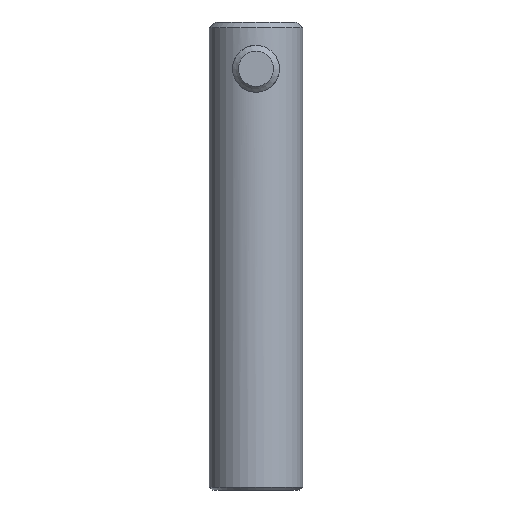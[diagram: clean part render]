
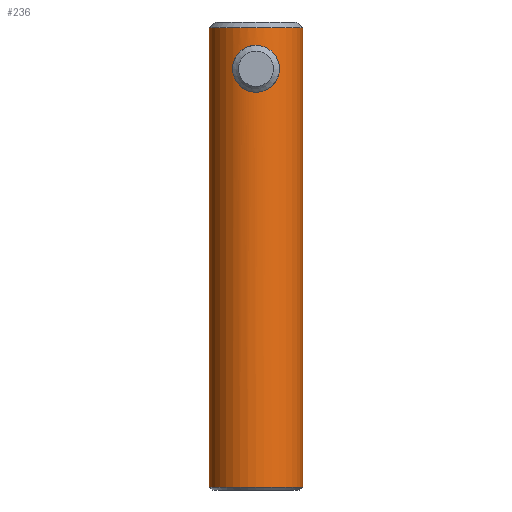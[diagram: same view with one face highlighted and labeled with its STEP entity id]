
A CAD part, left-side view. The second image highlights one B-rep face of the part: STEP entity #236.
In plain terms, the highlighted cylindrical face has radius 8 mm (diameter 16 mm), a full revolution.
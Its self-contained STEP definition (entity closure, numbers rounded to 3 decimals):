
#24=FACE_BOUND('',#51,.T.);
#26=B_SPLINE_CURVE_WITH_KNOTS('',3,(#378,#379,#380,#381,#382,#383,#384,
#385,#386,#387),.UNSPECIFIED.,.F.,.F.,(4,2,2,2,4),(1.845,1.999,
2.152,2.306,2.46),.UNSPECIFIED.);
#27=B_SPLINE_CURVE_WITH_KNOTS('',3,(#389,#390,#391,#392,#393,#394,#395,
#396,#397,#398),.UNSPECIFIED.,.F.,.F.,(4,2,2,2,4),(0.,0.154,
0.308,0.461,0.615),.UNSPECIFIED.);
#28=B_SPLINE_CURVE_WITH_KNOTS('',3,(#400,#401,#402,#403,#404,#405,#406,
#407,#408,#409,#410,#411,#412,#413,#414,#415,#416,#417),.UNSPECIFIED.,.F.,
 .F.,(4,2,2,2,2,2,2,2,4),(0.615,0.769,0.922,
1.076,1.23,1.384,1.538,1.692,
1.845),.UNSPECIFIED.);
#29=B_SPLINE_CURVE_WITH_KNOTS('',3,(#419,#420,#421,#422,#423,#424,#425,
#426,#427,#428,#429,#430,#431,#432,#433,#434,#435,#436,#437,#438,#439,#440,
#441,#442,#443,#444,#445,#446,#447,#448,#449,#450,#451,#452),
 .UNSPECIFIED.,.T.,.F.,(4,2,2,2,2,2,2,2,2,2,2,2,2,2,2,2,4),(0.,0.154,
0.308,0.461,0.615,0.769,
0.922,1.076,1.23,1.384,1.538,
1.692,1.845,1.999,2.152,2.306,
2.46),.UNSPECIFIED.);
#30=CYLINDRICAL_SURFACE('',#274,8.);
#34=FACE_OUTER_BOUND('',#50,.T.);
#50=EDGE_LOOP('',(#171,#172,#173,#174,#175,#176,#177,#178,#179));
#51=EDGE_LOOP('',(#180));
#68=LINE('',#376,#88);
#69=LINE('',#399,#89);
#88=VECTOR('',#308,8.);
#89=VECTOR('',#309,8.);
#108=CIRCLE('',#273,8.);
#109=CIRCLE('',#275,8.);
#116=VERTEX_POINT('',#369);
#117=VERTEX_POINT('',#373);
#118=VERTEX_POINT('',#375);
#119=VERTEX_POINT('',#377);
#120=VERTEX_POINT('',#388);
#121=VERTEX_POINT('',#418);
#137=EDGE_CURVE('',#116,#116,#108,.T.);
#138=EDGE_CURVE('',#117,#117,#109,.T.);
#139=EDGE_CURVE('',#117,#118,#68,.T.);
#140=EDGE_CURVE('',#118,#119,#26,.T.);
#141=EDGE_CURVE('',#119,#120,#27,.T.);
#142=EDGE_CURVE('',#120,#116,#69,.T.);
#143=EDGE_CURVE('',#120,#118,#28,.T.);
#144=EDGE_CURVE('',#121,#121,#29,.T.);
#171=ORIENTED_EDGE('',*,*,#138,.F.);
#172=ORIENTED_EDGE('',*,*,#139,.T.);
#173=ORIENTED_EDGE('',*,*,#140,.T.);
#174=ORIENTED_EDGE('',*,*,#141,.T.);
#175=ORIENTED_EDGE('',*,*,#142,.T.);
#176=ORIENTED_EDGE('',*,*,#137,.F.);
#177=ORIENTED_EDGE('',*,*,#142,.F.);
#178=ORIENTED_EDGE('',*,*,#143,.T.);
#179=ORIENTED_EDGE('',*,*,#139,.F.);
#180=ORIENTED_EDGE('',*,*,#144,.T.);
#236=ADVANCED_FACE('',(#34,#24),#30,.T.);
#273=AXIS2_PLACEMENT_3D('',#371,#302,#303);
#274=AXIS2_PLACEMENT_3D('',#372,#304,#305);
#275=AXIS2_PLACEMENT_3D('',#374,#306,#307);
#302=DIRECTION('center_axis',(0.,0.,-1.));
#303=DIRECTION('ref_axis',(-1.,0.,0.));
#304=DIRECTION('center_axis',(0.,0.,1.));
#305=DIRECTION('ref_axis',(-1.,0.,0.));
#306=DIRECTION('center_axis',(0.,0.,1.));
#307=DIRECTION('ref_axis',(-1.,0.,0.));
#308=DIRECTION('',(0.,0.,-1.));
#309=DIRECTION('',(0.,0.,-1.));
#369=CARTESIAN_POINT('',(8.,0.,0.5));
#371=CARTESIAN_POINT('Origin',(0.,0.,0.5));
#372=CARTESIAN_POINT('Origin',(0.,0.,0.));
#373=CARTESIAN_POINT('',(8.,0.,79.));
#374=CARTESIAN_POINT('Origin',(0.,0.,79.));
#375=CARTESIAN_POINT('',(8.,0.,76.));
#376=CARTESIAN_POINT('',(8.,0.,0.));
#377=CARTESIAN_POINT('',(6.928,4.,72.));
#378=CARTESIAN_POINT('Ctrl Pts',(8.,0.,76.));
#379=CARTESIAN_POINT('Ctrl Pts',(8.,0.512,76.));
#380=CARTESIAN_POINT('Ctrl Pts',(7.946,1.052,75.896));
#381=CARTESIAN_POINT('Ctrl Pts',(7.753,2.035,75.485));
#382=CARTESIAN_POINT('Ctrl Pts',(7.615,2.479,75.178));
#383=CARTESIAN_POINT('Ctrl Pts',(7.351,3.179,74.478));
#384=CARTESIAN_POINT('Ctrl Pts',(7.205,3.485,74.034));
#385=CARTESIAN_POINT('Ctrl Pts',(6.991,3.896,73.053));
#386=CARTESIAN_POINT('Ctrl Pts',(6.928,4.,72.513));
#387=CARTESIAN_POINT('Ctrl Pts',(6.928,4.,72.));
#388=CARTESIAN_POINT('',(8.,0.,68.));
#389=CARTESIAN_POINT('Ctrl Pts',(6.928,4.,72.));
#390=CARTESIAN_POINT('Ctrl Pts',(6.928,4.,71.487));
#391=CARTESIAN_POINT('Ctrl Pts',(6.991,3.896,70.947));
#392=CARTESIAN_POINT('Ctrl Pts',(7.205,3.485,69.966));
#393=CARTESIAN_POINT('Ctrl Pts',(7.351,3.179,69.522));
#394=CARTESIAN_POINT('Ctrl Pts',(7.615,2.479,68.822));
#395=CARTESIAN_POINT('Ctrl Pts',(7.753,2.035,68.515));
#396=CARTESIAN_POINT('Ctrl Pts',(7.946,1.052,68.104));
#397=CARTESIAN_POINT('Ctrl Pts',(8.,0.512,68.));
#398=CARTESIAN_POINT('Ctrl Pts',(8.,0.,68.));
#399=CARTESIAN_POINT('',(8.,0.,0.));
#400=CARTESIAN_POINT('Ctrl Pts',(8.,0.,68.));
#401=CARTESIAN_POINT('Ctrl Pts',(8.,-0.512,68.));
#402=CARTESIAN_POINT('Ctrl Pts',(7.946,-1.052,68.104));
#403=CARTESIAN_POINT('Ctrl Pts',(7.753,-2.035,68.515));
#404=CARTESIAN_POINT('Ctrl Pts',(7.615,-2.479,68.822));
#405=CARTESIAN_POINT('Ctrl Pts',(7.351,-3.179,69.522));
#406=CARTESIAN_POINT('Ctrl Pts',(7.205,-3.485,69.966));
#407=CARTESIAN_POINT('Ctrl Pts',(6.991,-3.896,70.947));
#408=CARTESIAN_POINT('Ctrl Pts',(6.928,-4.,71.487));
#409=CARTESIAN_POINT('Ctrl Pts',(6.928,-4.,72.513));
#410=CARTESIAN_POINT('Ctrl Pts',(6.991,-3.896,73.053));
#411=CARTESIAN_POINT('Ctrl Pts',(7.205,-3.485,74.034));
#412=CARTESIAN_POINT('Ctrl Pts',(7.351,-3.179,74.478));
#413=CARTESIAN_POINT('Ctrl Pts',(7.615,-2.479,75.178));
#414=CARTESIAN_POINT('Ctrl Pts',(7.753,-2.035,75.485));
#415=CARTESIAN_POINT('Ctrl Pts',(7.946,-1.052,75.896));
#416=CARTESIAN_POINT('Ctrl Pts',(8.,-0.512,76.));
#417=CARTESIAN_POINT('Ctrl Pts',(8.,0.,76.));
#418=CARTESIAN_POINT('',(-6.928,4.,72.));
#419=CARTESIAN_POINT('Ctrl Pts',(-6.928,4.,72.));
#420=CARTESIAN_POINT('Ctrl Pts',(-6.928,4.,72.513));
#421=CARTESIAN_POINT('Ctrl Pts',(-6.991,3.896,73.053));
#422=CARTESIAN_POINT('Ctrl Pts',(-7.205,3.485,74.034));
#423=CARTESIAN_POINT('Ctrl Pts',(-7.351,3.179,74.478));
#424=CARTESIAN_POINT('Ctrl Pts',(-7.615,2.479,75.178));
#425=CARTESIAN_POINT('Ctrl Pts',(-7.753,2.035,75.485));
#426=CARTESIAN_POINT('Ctrl Pts',(-7.946,1.052,75.896));
#427=CARTESIAN_POINT('Ctrl Pts',(-8.,0.512,76.));
#428=CARTESIAN_POINT('Ctrl Pts',(-8.,-0.512,76.));
#429=CARTESIAN_POINT('Ctrl Pts',(-7.946,-1.052,75.896));
#430=CARTESIAN_POINT('Ctrl Pts',(-7.753,-2.035,75.485));
#431=CARTESIAN_POINT('Ctrl Pts',(-7.615,-2.479,75.178));
#432=CARTESIAN_POINT('Ctrl Pts',(-7.351,-3.179,74.478));
#433=CARTESIAN_POINT('Ctrl Pts',(-7.205,-3.485,74.034));
#434=CARTESIAN_POINT('Ctrl Pts',(-6.991,-3.896,73.053));
#435=CARTESIAN_POINT('Ctrl Pts',(-6.928,-4.,72.513));
#436=CARTESIAN_POINT('Ctrl Pts',(-6.928,-4.,71.487));
#437=CARTESIAN_POINT('Ctrl Pts',(-6.991,-3.896,70.947));
#438=CARTESIAN_POINT('Ctrl Pts',(-7.205,-3.485,69.966));
#439=CARTESIAN_POINT('Ctrl Pts',(-7.351,-3.179,69.522));
#440=CARTESIAN_POINT('Ctrl Pts',(-7.615,-2.479,68.822));
#441=CARTESIAN_POINT('Ctrl Pts',(-7.753,-2.035,68.515));
#442=CARTESIAN_POINT('Ctrl Pts',(-7.946,-1.052,68.104));
#443=CARTESIAN_POINT('Ctrl Pts',(-8.,-0.512,68.));
#444=CARTESIAN_POINT('Ctrl Pts',(-8.,0.512,68.));
#445=CARTESIAN_POINT('Ctrl Pts',(-7.946,1.052,68.104));
#446=CARTESIAN_POINT('Ctrl Pts',(-7.753,2.035,68.515));
#447=CARTESIAN_POINT('Ctrl Pts',(-7.615,2.479,68.822));
#448=CARTESIAN_POINT('Ctrl Pts',(-7.351,3.179,69.522));
#449=CARTESIAN_POINT('Ctrl Pts',(-7.205,3.485,69.966));
#450=CARTESIAN_POINT('Ctrl Pts',(-6.991,3.896,70.947));
#451=CARTESIAN_POINT('Ctrl Pts',(-6.928,4.,71.487));
#452=CARTESIAN_POINT('Ctrl Pts',(-6.928,4.,72.));
